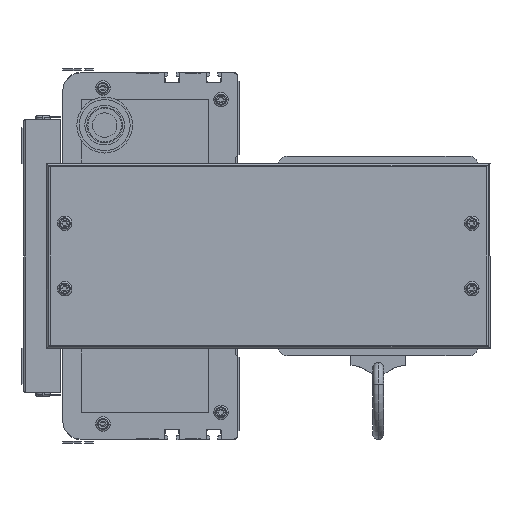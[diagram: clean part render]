
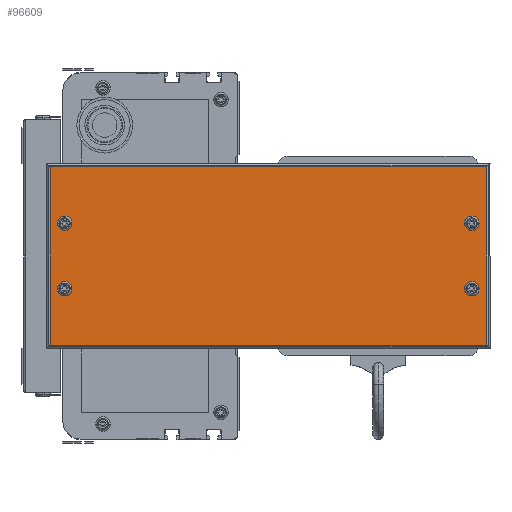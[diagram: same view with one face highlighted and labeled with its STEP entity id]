
A CAD part, left-side view. The second image highlights one B-rep face of the part: STEP entity #96609.
In plain terms, the highlighted planar face has unit normal (-1, 0, 0) as drawn and (1, 0, 0) by its records, which use the part's own axes.
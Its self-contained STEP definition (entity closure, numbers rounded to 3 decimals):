
#3965 = AXIS2_PLACEMENT_3D ( 'NONE', #4280, #4279, #4269 ) ;
#4269 = DIRECTION ( 'NONE',  ( 0., 0., -1. ) ) ;
#4279 = DIRECTION ( 'NONE',  ( 1., 0., 0. ) ) ;
#4280 = CARTESIAN_POINT ( 'NONE',  ( 50., 10., -33. ) ) ;
#4810 = DIRECTION ( 'NONE',  ( 0., 0., -1. ) ) ;
#4811 = AXIS2_PLACEMENT_3D ( 'NONE', #4823, #4874, #4810 ) ;
#4823 = CARTESIAN_POINT ( 'NONE',  ( 50., 10., -69. ) ) ;
#4874 = DIRECTION ( 'NONE',  ( 1., 0., 0. ) ) ;
#4889 = CIRCLE ( 'NONE', #4811, 2.5 ) ;
#6048 = DIRECTION ( 'NONE',  ( 0., 0., -1. ) ) ;
#6049 = DIRECTION ( 'NONE',  ( 1., 0., 0. ) ) ;
#6051 = CARTESIAN_POINT ( 'NONE',  ( 50., 10., -33. ) ) ;
#6052 = AXIS2_PLACEMENT_3D ( 'NONE', #6051, #6049, #6048 ) ;
#6068 = CIRCLE ( 'NONE', #6052, 2.5 ) ;
#96376 = VERTEX_POINT ( 'NONE', #125725 ) ;
#96381 = VERTEX_POINT ( 'NONE', #125685 ) ;
#96382 = EDGE_LOOP ( 'NONE', ( #96420, #96746 ) ) ;
#96390 = ORIENTED_EDGE ( 'NONE', *, *, #96436, .F. ) ;
#96420 = ORIENTED_EDGE ( 'NONE', *, *, #96782, .F. ) ;
#96433 = VERTEX_POINT ( 'NONE', #125291 ) ;
#96434 = VERTEX_POINT ( 'NONE', #125272 ) ;
#96435 = VERTEX_POINT ( 'NONE', #125270 ) ;
#96436 = EDGE_CURVE ( 'NONE', #96434, #96433, #125313, .T. ) ;
#96452 = EDGE_CURVE ( 'NONE', #96602, #96525, #125135, .T. ) ;
#96459 = EDGE_LOOP ( 'NONE', ( #97191, #96390 ) ) ;
#96466 = VERTEX_POINT ( 'NONE', #125128 ) ;
#96467 = EDGE_CURVE ( 'NONE', #96538, #96466, #125071, .T. ) ;
#96505 = EDGE_CURVE ( 'NONE', #96381, #96592, #6068, .T. ) ;
#96525 = VERTEX_POINT ( 'NONE', #153472 ) ;
#96538 = VERTEX_POINT ( 'NONE', #153849 ) ;
#96592 = VERTEX_POINT ( 'NONE', #154498 ) ;
#96601 = VERTEX_POINT ( 'NONE', #154791 ) ;
#96602 = VERTEX_POINT ( 'NONE', #154837 ) ;
#96603 = ORIENTED_EDGE ( 'NONE', *, *, #96732, .T. ) ;
#96604 = ORIENTED_EDGE ( 'NONE', *, *, #96505, .F. ) ;
#96605 = ORIENTED_EDGE ( 'NONE', *, *, #96606, .T. ) ;
#96606 = EDGE_CURVE ( 'NONE', #96601, #96602, #154839, .T. ) ;
#96607 = EDGE_CURVE ( 'NONE', #96608, #96601, #154773, .T. ) ;
#96608 = VERTEX_POINT ( 'NONE', #154767 ) ;
#96609 = ADVANCED_FACE ( 'NONE', ( #154766, #154856, #154760, #154783, #154803 ), #154782, .F. ) ;
#96610 = ORIENTED_EDGE ( 'NONE', *, *, #96607, .T. ) ;
#96611 = EDGE_LOOP ( 'NONE', ( #96610, #96605, #96613, #96603 ) ) ;
#96613 = ORIENTED_EDGE ( 'NONE', *, *, #96452, .T. ) ;
#96614 = EDGE_CURVE ( 'NONE', #96376, #96435, #154794, .T. ) ;
#96713 = ORIENTED_EDGE ( 'NONE', *, *, #96907, .F. ) ;
#96722 = EDGE_LOOP ( 'NONE', ( #96902, #96604 ) ) ;
#96732 = EDGE_CURVE ( 'NONE', #96525, #96608, #154981, .T. ) ;
#96746 = ORIENTED_EDGE ( 'NONE', *, *, #96614, .F. ) ;
#96782 = EDGE_CURVE ( 'NONE', #96435, #96376, #156090, .T. ) ;
#96793 = EDGE_LOOP ( 'NONE', ( #96713, #96903 ) ) ;
#96902 = ORIENTED_EDGE ( 'NONE', *, *, #96973, .F. ) ;
#96903 = ORIENTED_EDGE ( 'NONE', *, *, #96467, .F. ) ;
#96907 = EDGE_CURVE ( 'NONE', #96466, #96538, #4889, .T. ) ;
#96973 = EDGE_CURVE ( 'NONE', #96592, #96381, #155951, .T. ) ;
#97191 = ORIENTED_EDGE ( 'NONE', *, *, #97205, .F. ) ;
#97205 = EDGE_CURVE ( 'NONE', #96433, #96434, #126243, .T. ) ;
#123718 = DIRECTION ( 'NONE',  ( 0., 0., -1. ) ) ;
#123726 = DIRECTION ( 'NONE',  ( 1., 0., 0. ) ) ;
#123799 = CARTESIAN_POINT ( 'NONE',  ( 50., 10., -69. ) ) ;
#125071 = CIRCLE ( 'NONE', #125106, 2.5 ) ;
#125106 = AXIS2_PLACEMENT_3D ( 'NONE', #123799, #123726, #123718 ) ;
#125128 = CARTESIAN_POINT ( 'NONE',  ( 50., 10., -71.5 ) ) ;
#125130 = DIRECTION ( 'NONE',  ( 0., 1., 0. ) ) ;
#125132 = VECTOR ( 'NONE', #125130, 1000. ) ;
#125134 = CARTESIAN_POINT ( 'NONE',  ( 50., 244., -100. ) ) ;
#125135 = LINE ( 'NONE', #125134, #125132 ) ;
#125214 = DIRECTION ( 'NONE',  ( 0., 0., -1. ) ) ;
#125217 = DIRECTION ( 'NONE',  ( 1., 0., 0. ) ) ;
#125219 = CARTESIAN_POINT ( 'NONE',  ( 50., 234., -33. ) ) ;
#125221 = AXIS2_PLACEMENT_3D ( 'NONE', #125219, #125217, #125214 ) ;
#125270 = CARTESIAN_POINT ( 'NONE',  ( 50., 234., -71.5 ) ) ;
#125272 = CARTESIAN_POINT ( 'NONE',  ( 50., 234., -30.5 ) ) ;
#125291 = CARTESIAN_POINT ( 'NONE',  ( 50., 234., -35.5 ) ) ;
#125313 = CIRCLE ( 'NONE', #125221, 2.5 ) ;
#125685 = CARTESIAN_POINT ( 'NONE',  ( 50., 10., -30.5 ) ) ;
#125725 = CARTESIAN_POINT ( 'NONE',  ( 50., 234., -66.5 ) ) ;
#126225 = DIRECTION ( 'NONE',  ( 0., 0., -1. ) ) ;
#126227 = DIRECTION ( 'NONE',  ( 1., 0., 0. ) ) ;
#126229 = CARTESIAN_POINT ( 'NONE',  ( 50., 234., -33. ) ) ;
#126230 = AXIS2_PLACEMENT_3D ( 'NONE', #126229, #126227, #126225 ) ;
#126243 = CIRCLE ( 'NONE', #126230, 2.5 ) ;
#153472 = CARTESIAN_POINT ( 'NONE',  ( 50., 242., -100. ) ) ;
#153849 = CARTESIAN_POINT ( 'NONE',  ( 50., 10., -66.5 ) ) ;
#154498 = CARTESIAN_POINT ( 'NONE',  ( 50., 10., -35.5 ) ) ;
#154733 = DIRECTION ( 'NONE',  ( 0., 0., -1. ) ) ;
#154735 = DIRECTION ( 'NONE',  ( 1., 0., 0. ) ) ;
#154751 = AXIS2_PLACEMENT_3D ( 'NONE', #154858, #154735, #154733 ) ;
#154752 = DIRECTION ( 'NONE',  ( 0., 0., 1. ) ) ;
#154757 = CARTESIAN_POINT ( 'NONE',  ( 50., 244., 0. ) ) ;
#154758 = AXIS2_PLACEMENT_3D ( 'NONE', #154757, #154780, #154752 ) ;
#154760 = FACE_BOUND ( 'NONE', #96722, .T. ) ;
#154762 = DIRECTION ( 'NONE',  ( 0., -1., 0. ) ) ;
#154764 = VECTOR ( 'NONE', #154762, 1000. ) ;
#154766 = FACE_OUTER_BOUND ( 'NONE', #96611, .T. ) ;
#154767 = CARTESIAN_POINT ( 'NONE',  ( 50., 242., -2. ) ) ;
#154771 = CARTESIAN_POINT ( 'NONE',  ( 50., 244., -2. ) ) ;
#154773 = LINE ( 'NONE', #154771, #154764 ) ;
#154776 = DIRECTION ( 'NONE',  ( 0., 0., -1. ) ) ;
#154777 = VECTOR ( 'NONE', #154776, 1000. ) ;
#154780 = DIRECTION ( 'NONE',  ( -1., 0., 0. ) ) ;
#154782 = PLANE ( 'NONE',  #154758 ) ;
#154783 = FACE_BOUND ( 'NONE', #96382, .T. ) ;
#154791 = CARTESIAN_POINT ( 'NONE',  ( 50., 2., -2. ) ) ;
#154794 = CIRCLE ( 'NONE', #154751, 2.5 ) ;
#154803 = FACE_BOUND ( 'NONE', #96459, .T. ) ;
#154837 = CARTESIAN_POINT ( 'NONE',  ( 50., 2., -100. ) ) ;
#154838 = CARTESIAN_POINT ( 'NONE',  ( 50., 2., 0. ) ) ;
#154839 = LINE ( 'NONE', #154838, #154777 ) ;
#154856 = FACE_BOUND ( 'NONE', #96793, .T. ) ;
#154858 = CARTESIAN_POINT ( 'NONE',  ( 50., 234., -69. ) ) ;
#154963 = DIRECTION ( 'NONE',  ( 0., 0., 1. ) ) ;
#154964 = VECTOR ( 'NONE', #154963, 1000. ) ;
#154965 = CARTESIAN_POINT ( 'NONE',  ( 50., 242., 0. ) ) ;
#154981 = LINE ( 'NONE', #154965, #154964 ) ;
#155951 = CIRCLE ( 'NONE', #3965, 2.5 ) ;
#156090 = CIRCLE ( 'NONE', #156224, 2.5 ) ;
#156209 = DIRECTION ( 'NONE',  ( 0., 0., -1. ) ) ;
#156210 = DIRECTION ( 'NONE',  ( 1., 0., 0. ) ) ;
#156212 = CARTESIAN_POINT ( 'NONE',  ( 50., 234., -69. ) ) ;
#156224 = AXIS2_PLACEMENT_3D ( 'NONE', #156212, #156210, #156209 ) ;
